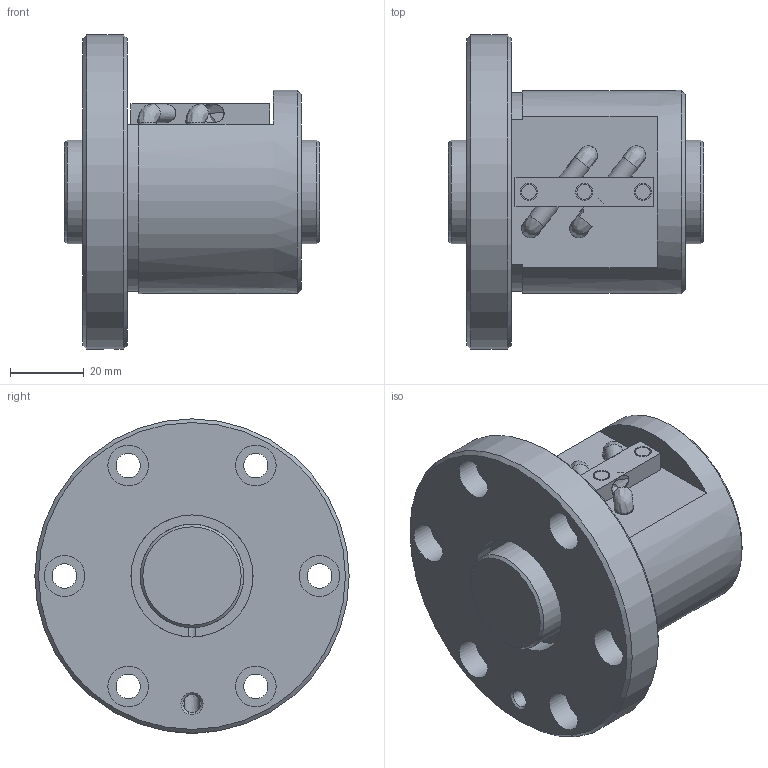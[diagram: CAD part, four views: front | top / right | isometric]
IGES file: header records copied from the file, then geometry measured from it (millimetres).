
Start section: Data from Parasolid IGES Translator 26.0.171, Copyright(c) 2006 Siemens PLM Software. All Rights Reserved.
Global section: file name: BIF2805V-5RRG0+69LC0_000.igs; native system: By Siemens PLM Incorporated; preprocessor: XPlus GENERIC/IGES 26.0.171; author: Noname; organization: Noname; date: 20240715.081808; units: millimetre
Bounding box: 69 x 85 x 85 mm (x, y, z)
Surface area: 37094.6 mm2 (no closed solid volume)
Topology: 0 solids, 0 shells, 98 faces, 444 edges, 403 vertices
Faces by surface type: revolution 57, extrusion 41
